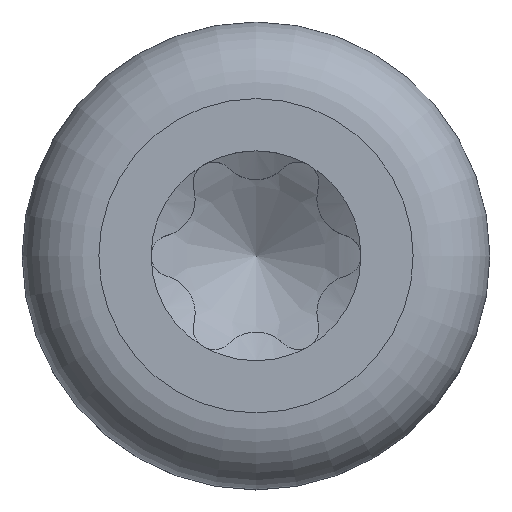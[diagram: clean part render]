
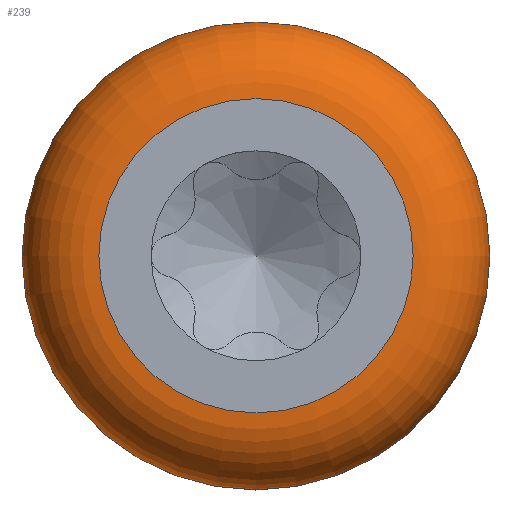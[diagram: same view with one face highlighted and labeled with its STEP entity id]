
A CAD part, top view. The second image highlights one B-rep face of the part: STEP entity #239.
In plain terms, the highlighted toroidal (fillet/blend) face has major radius 1.31 mm and minor radius 0.64 mm.
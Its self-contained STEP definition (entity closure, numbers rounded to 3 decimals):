
#239=ADVANCED_FACE('',(#405,#406),#298,.T.);
#298=TOROIDAL_SURFACE('',#1094,1.31,0.64);
#405=FACE_BOUND('',#429,.T.);
#406=FACE_BOUND('',#430,.T.);
#429=EDGE_LOOP('',(#540));
#430=EDGE_LOOP('',(#541));
#540=ORIENTED_EDGE('',*,*,#943,.F.);
#541=ORIENTED_EDGE('',*,*,#942,.T.);
#838=VERTEX_POINT('',#2236);
#839=VERTEX_POINT('',#2239);
#942=EDGE_CURVE('',#838,#838,#1064,.T.);
#943=EDGE_CURVE('',#839,#839,#1065,.T.);
#1064=CIRCLE('',#1091,1.95);
#1065=CIRCLE('',#1093,1.31);
#1091=AXIS2_PLACEMENT_3D('',#2235,#1163,#1164);
#1093=AXIS2_PLACEMENT_3D('',#2238,#1167,#1168);
#1094=AXIS2_PLACEMENT_3D('',#2240,#1169,#1170);
#1163=DIRECTION('',(0.,0.,1.));
#1164=DIRECTION('',(1.,0.,0.));
#1167=DIRECTION('',(0.,0.,1.));
#1168=DIRECTION('',(1.,0.,0.));
#1169=DIRECTION('',(0.,0.,1.));
#1170=DIRECTION('',(1.,0.,0.));
#2235=CARTESIAN_POINT('',(0.,0.,0.96));
#2236=CARTESIAN_POINT('',(1.95,0.,0.96));
#2238=CARTESIAN_POINT('',(0.,0.,1.6));
#2239=CARTESIAN_POINT('',(1.31,0.,1.6));
#2240=CARTESIAN_POINT('',(0.,0.,0.96));
